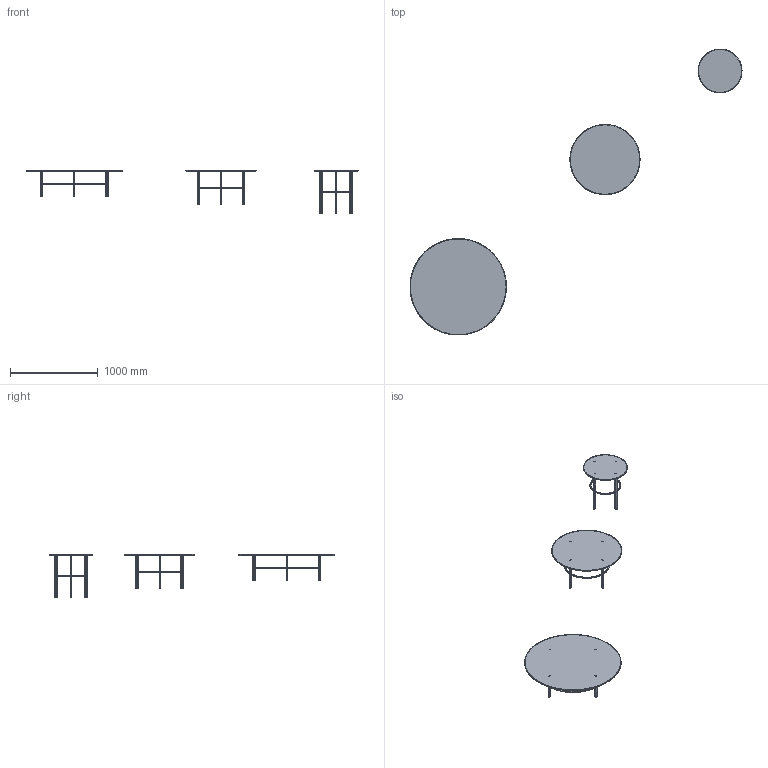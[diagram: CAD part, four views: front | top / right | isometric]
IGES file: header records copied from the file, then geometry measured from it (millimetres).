
Global section: file name: Z:\3D_HQ\2023\tavolini-Wanders\xRNDR\tavolini-Wanders.igs; native system: Rhinoceros ( Aug 11 2021 ); preprocessor: Trout Lake IGES 012 Aug 11 2021; date: 230315.173142; units: millimetre
Bounding box: 3785.04 x 3260.39 x 496 mm (x, y, z)
Surface area: 3901367.5 mm2 (no closed solid volume)
Topology: 0 solids, 0 shells, 474 faces, 32277 edges, 32166 vertices
Faces by surface type: bspline 474
